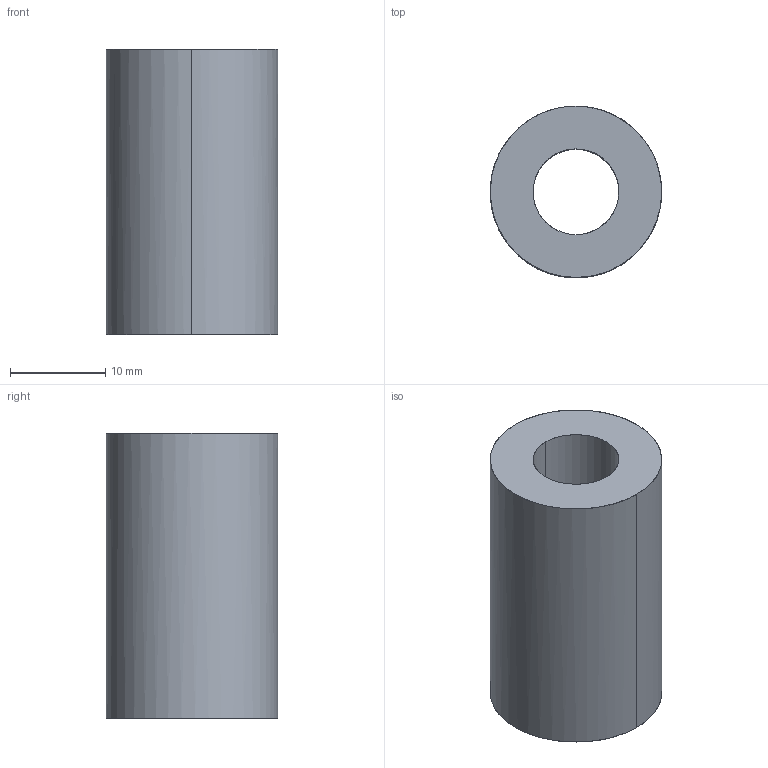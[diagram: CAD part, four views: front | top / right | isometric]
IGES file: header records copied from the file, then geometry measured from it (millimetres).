
Global section: file name: E:\UnigraphicsGraphicData\MISUMI_PRESS-PARTS\IGES\3d_swz18-30_00775_r00.igs; native system: NX V5.0; preprocessor: UGS NX IGES V5.0; author: MISUMI; date: 20110105.163303; units: millimetre
Bounding box: 18 x 18 x 30 mm (x, y, z)
Surface area: 2927.6 mm2 (no closed solid volume)
Topology: 0 solids, 0 shells, 6 faces, 48 edges, 48 vertices
Faces by surface type: bspline 6
